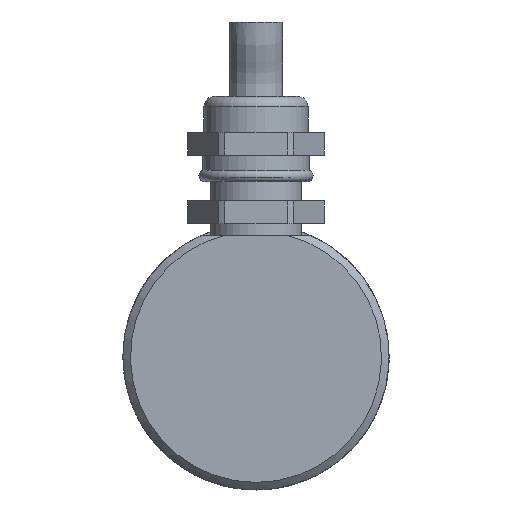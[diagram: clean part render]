
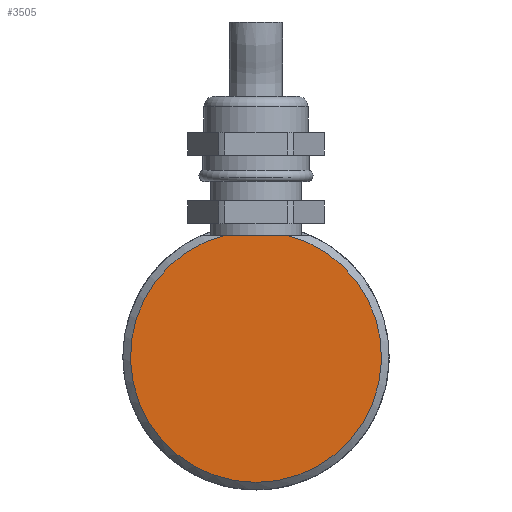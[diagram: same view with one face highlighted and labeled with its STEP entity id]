
A CAD part, left-side view. The second image highlights one B-rep face of the part: STEP entity #3505.
In plain terms, the highlighted planar face has unit normal (-1, 0, 0).
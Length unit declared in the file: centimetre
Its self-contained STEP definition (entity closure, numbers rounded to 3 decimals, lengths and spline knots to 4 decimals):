
#1898=VERTEX_POINT('',#9718);
#1901=VERTEX_POINT('',#9725);
#2123=EDGE_CURVE('',#1901,#1898,#3615,.T.);
#2128=EDGE_CURVE('',#1901,#1898,#4080,.T.);
#2917=ORIENTED_EDGE('',*,*,#2123,.F.);
#2918=ORIENTED_EDGE('',*,*,#2128,.T.);
#3195=EDGE_LOOP('',(#2917,#2918));
#3353=FACE_BOUND('',#3195,.T.);
#3505=ADVANCED_FACE('',(#3353),#8874,.T.);
#3615=CIRCLE('',#8232,1.65);
#4080=LINE('',#9735,#8633);
#8232=AXIS2_PLACEMENT_3D('',#9726,#12897,#12898);
#8368=AXIS2_PLACEMENT_3D('',#12128,#13203,$);
#8633=VECTOR('',#12905,1.);
#8874=PLANE('',#8368);
#9718=CARTESIAN_POINT('',(0.,0.4031,1.6));
#9725=CARTESIAN_POINT('',(0.,-0.4031,1.6));
#9726=CARTESIAN_POINT('',(0.,0.,0.));
#9735=CARTESIAN_POINT('',(0.,2.775,1.6));
#12128=CARTESIAN_POINT('',(0.,0.,-0.875));
#12897=DIRECTION('',(1.,0.,0.));
#12898=DIRECTION('',(0.,0.,-1.65));
#12905=DIRECTION('',(0.,1.,0.));
#13203=DIRECTION('',(-1.,0.,0.));
